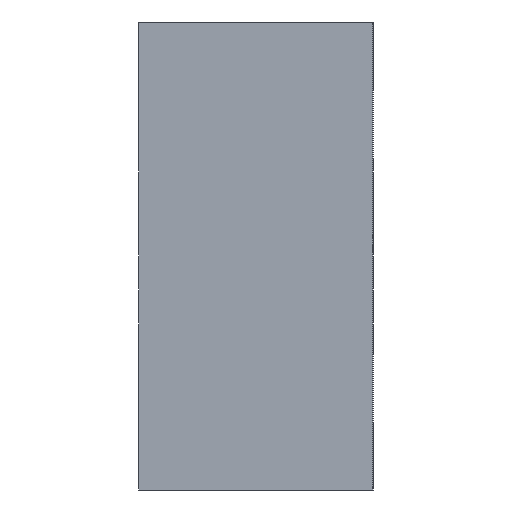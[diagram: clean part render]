
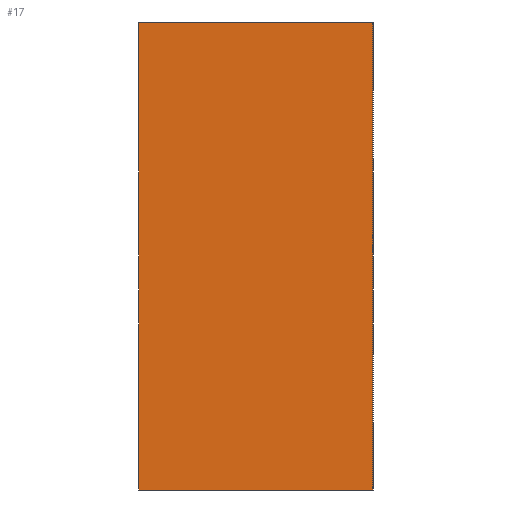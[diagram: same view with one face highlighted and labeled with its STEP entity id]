
A CAD part, left-side view. The second image highlights one B-rep face of the part: STEP entity #17.
In plain terms, the highlighted planar face has unit normal (-1, 0, 0).
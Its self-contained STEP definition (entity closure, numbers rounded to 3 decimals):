
#17 = ADVANCED_FACE('',(#18),#32,.F.);
#18 = FACE_BOUND('',#19,.F.);
#19 = EDGE_LOOP('',(#20,#55,#83,#111));
#20 = ORIENTED_EDGE('',*,*,#21,.F.);
#21 = EDGE_CURVE('',#22,#24,#26,.T.);
#22 = VERTEX_POINT('',#23);
#23 = CARTESIAN_POINT('',(-18.,-90.6,-29.));
#24 = VERTEX_POINT('',#25);
#25 = CARTESIAN_POINT('',(-18.,-90.6,-21.));
#26 = SURFACE_CURVE('',#27,(#31,#43),.PCURVE_S1.);
#27 = LINE('',#28,#29);
#28 = CARTESIAN_POINT('',(-18.,-90.6,-29.));
#29 = VECTOR('',#30,1.);
#30 = DIRECTION('',(0.,0.,1.));
#31 = PCURVE('',#32,#37);
#32 = PLANE('',#33);
#33 = AXIS2_PLACEMENT_3D('',#34,#35,#36);
#34 = CARTESIAN_POINT('',(-18.,-90.6,-29.));
#35 = DIRECTION('',(1.,0.,-0.));
#36 = DIRECTION('',(0.,0.,1.));
#37 = DEFINITIONAL_REPRESENTATION('',(#38),#42);
#38 = LINE('',#39,#40);
#39 = CARTESIAN_POINT('',(0.,0.));
#40 = VECTOR('',#41,1.);
#41 = DIRECTION('',(1.,0.));
#42 = ( GEOMETRIC_REPRESENTATION_CONTEXT(2) 
PARAMETRIC_REPRESENTATION_CONTEXT() REPRESENTATION_CONTEXT('2D SPACE',''
  ) );
#43 = PCURVE('',#44,#49);
#44 = PLANE('',#45);
#45 = AXIS2_PLACEMENT_3D('',#46,#47,#48);
#46 = CARTESIAN_POINT('',(-18.,-90.6,-29.));
#47 = DIRECTION('',(-0.,1.,0.));
#48 = DIRECTION('',(0.,0.,1.));
#49 = DEFINITIONAL_REPRESENTATION('',(#50),#54);
#50 = LINE('',#51,#52);
#51 = CARTESIAN_POINT('',(0.,0.));
#52 = VECTOR('',#53,1.);
#53 = DIRECTION('',(1.,0.));
#54 = ( GEOMETRIC_REPRESENTATION_CONTEXT(2) 
PARAMETRIC_REPRESENTATION_CONTEXT() REPRESENTATION_CONTEXT('2D SPACE',''
  ) );
#55 = ORIENTED_EDGE('',*,*,#56,.T.);
#56 = EDGE_CURVE('',#22,#57,#59,.T.);
#57 = VERTEX_POINT('',#58);
#58 = CARTESIAN_POINT('',(-18.,-86.6,-29.));
#59 = SURFACE_CURVE('',#60,(#64,#71),.PCURVE_S1.);
#60 = LINE('',#61,#62);
#61 = CARTESIAN_POINT('',(-18.,-90.6,-29.));
#62 = VECTOR('',#63,1.);
#63 = DIRECTION('',(-0.,1.,0.));
#64 = PCURVE('',#32,#65);
#65 = DEFINITIONAL_REPRESENTATION('',(#66),#70);
#66 = LINE('',#67,#68);
#67 = CARTESIAN_POINT('',(0.,0.));
#68 = VECTOR('',#69,1.);
#69 = DIRECTION('',(0.,-1.));
#70 = ( GEOMETRIC_REPRESENTATION_CONTEXT(2) 
PARAMETRIC_REPRESENTATION_CONTEXT() REPRESENTATION_CONTEXT('2D SPACE',''
  ) );
#71 = PCURVE('',#72,#77);
#72 = PLANE('',#73);
#73 = AXIS2_PLACEMENT_3D('',#74,#75,#76);
#74 = CARTESIAN_POINT('',(-18.,-90.6,-29.));
#75 = DIRECTION('',(0.,0.,1.));
#76 = DIRECTION('',(1.,0.,-0.));
#77 = DEFINITIONAL_REPRESENTATION('',(#78),#82);
#78 = LINE('',#79,#80);
#79 = CARTESIAN_POINT('',(0.,0.));
#80 = VECTOR('',#81,1.);
#81 = DIRECTION('',(0.,1.));
#82 = ( GEOMETRIC_REPRESENTATION_CONTEXT(2) 
PARAMETRIC_REPRESENTATION_CONTEXT() REPRESENTATION_CONTEXT('2D SPACE',''
  ) );
#83 = ORIENTED_EDGE('',*,*,#84,.T.);
#84 = EDGE_CURVE('',#57,#85,#87,.T.);
#85 = VERTEX_POINT('',#86);
#86 = CARTESIAN_POINT('',(-18.,-86.6,-21.));
#87 = SURFACE_CURVE('',#88,(#92,#99),.PCURVE_S1.);
#88 = LINE('',#89,#90);
#89 = CARTESIAN_POINT('',(-18.,-86.6,-29.));
#90 = VECTOR('',#91,1.);
#91 = DIRECTION('',(0.,0.,1.));
#92 = PCURVE('',#32,#93);
#93 = DEFINITIONAL_REPRESENTATION('',(#94),#98);
#94 = LINE('',#95,#96);
#95 = CARTESIAN_POINT('',(0.,-4.));
#96 = VECTOR('',#97,1.);
#97 = DIRECTION('',(1.,0.));
#98 = ( GEOMETRIC_REPRESENTATION_CONTEXT(2) 
PARAMETRIC_REPRESENTATION_CONTEXT() REPRESENTATION_CONTEXT('2D SPACE',''
  ) );
#99 = PCURVE('',#100,#105);
#100 = PLANE('',#101);
#101 = AXIS2_PLACEMENT_3D('',#102,#103,#104);
#102 = CARTESIAN_POINT('',(-18.,-86.6,-29.));
#103 = DIRECTION('',(-0.,1.,0.));
#104 = DIRECTION('',(0.,0.,1.));
#105 = DEFINITIONAL_REPRESENTATION('',(#106),#110);
#106 = LINE('',#107,#108);
#107 = CARTESIAN_POINT('',(0.,0.));
#108 = VECTOR('',#109,1.);
#109 = DIRECTION('',(1.,0.));
#110 = ( GEOMETRIC_REPRESENTATION_CONTEXT(2) 
PARAMETRIC_REPRESENTATION_CONTEXT() REPRESENTATION_CONTEXT('2D SPACE',''
  ) );
#111 = ORIENTED_EDGE('',*,*,#112,.F.);
#112 = EDGE_CURVE('',#24,#85,#113,.T.);
#113 = SURFACE_CURVE('',#114,(#118,#125),.PCURVE_S1.);
#114 = LINE('',#115,#116);
#115 = CARTESIAN_POINT('',(-18.,-90.6,-21.));
#116 = VECTOR('',#117,1.);
#117 = DIRECTION('',(-0.,1.,0.));
#118 = PCURVE('',#32,#119);
#119 = DEFINITIONAL_REPRESENTATION('',(#120),#124);
#120 = LINE('',#121,#122);
#121 = CARTESIAN_POINT('',(8.,0.));
#122 = VECTOR('',#123,1.);
#123 = DIRECTION('',(0.,-1.));
#124 = ( GEOMETRIC_REPRESENTATION_CONTEXT(2) 
PARAMETRIC_REPRESENTATION_CONTEXT() REPRESENTATION_CONTEXT('2D SPACE',''
  ) );
#125 = PCURVE('',#126,#131);
#126 = PLANE('',#127);
#127 = AXIS2_PLACEMENT_3D('',#128,#129,#130);
#128 = CARTESIAN_POINT('',(-18.,-90.6,-21.));
#129 = DIRECTION('',(0.,0.,1.));
#130 = DIRECTION('',(1.,0.,-0.));
#131 = DEFINITIONAL_REPRESENTATION('',(#132),#136);
#132 = LINE('',#133,#134);
#133 = CARTESIAN_POINT('',(0.,0.));
#134 = VECTOR('',#135,1.);
#135 = DIRECTION('',(0.,1.));
#136 = ( GEOMETRIC_REPRESENTATION_CONTEXT(2) 
PARAMETRIC_REPRESENTATION_CONTEXT() REPRESENTATION_CONTEXT('2D SPACE',''
  ) );
